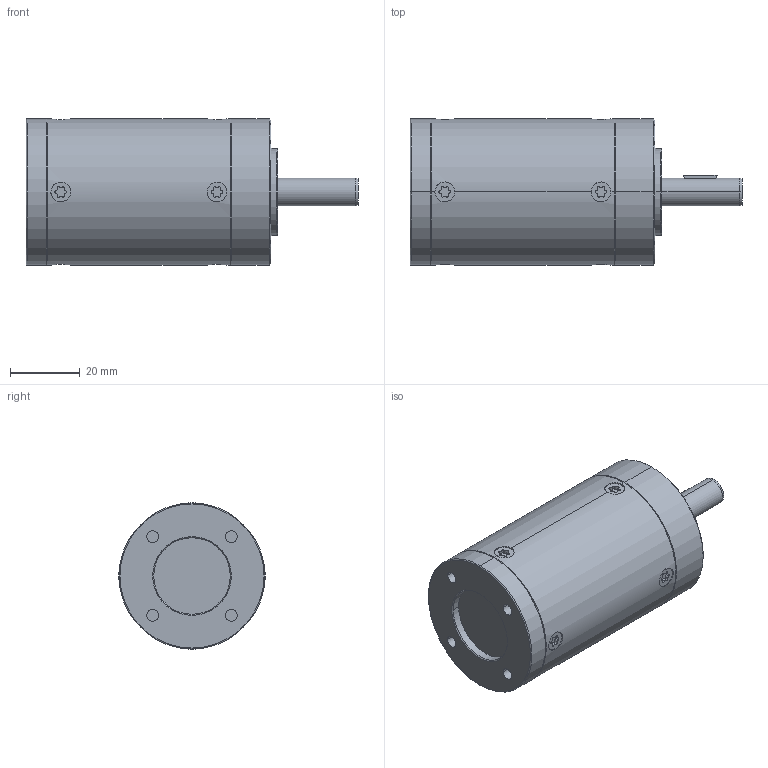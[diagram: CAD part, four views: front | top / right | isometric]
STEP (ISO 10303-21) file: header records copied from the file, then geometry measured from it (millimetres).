
FILE_DESCRIPTION((''),'2;1');
FILE_NAME('3-ST_8X25','2005-08-26T',('Andrej.Schneider'),(''),'PRO/ENGINEER BY PARAMETRIC TECHNOLOGY CORPORATION, 2003490','PRO/ENGINEER BY PARAMETRIC TECHNOLOGY CORPORATION, 2003490','');
FILE_SCHEMA(('AUTOMOTIVE_DESIGN_CC2 { 1 2 10303 214 -1 1 5 2 }'));
Length unit declared in the file: millimetre
Products named in the file (1): 3-ST_8X25
Bounding box: 95.4 x 42 x 42 mm (x, y, z)
Volume: 97659.7 mm3; surface area: 15033.9 mm2
Topology: 1 solids, 9 shells, 252 faces, 628 edges, 398 vertices
Faces by surface type: cylinder 166, cone 48, plane 36, torus 2
Entity records: 9534 total; most frequent: CARTESIAN_POINT 1529, DIRECTION 1472, ORIENTED_EDGE 1192, AXIS2_PLACEMENT_3D 625, EDGE_CURVE 612, VERTEX_POINT 398, CIRCLE 372, EDGE_LOOP 288
